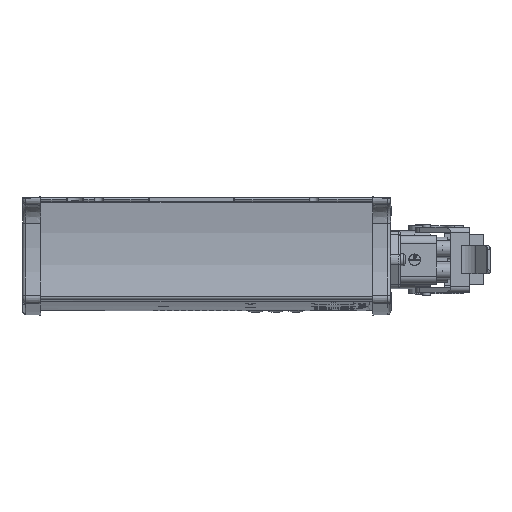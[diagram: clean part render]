
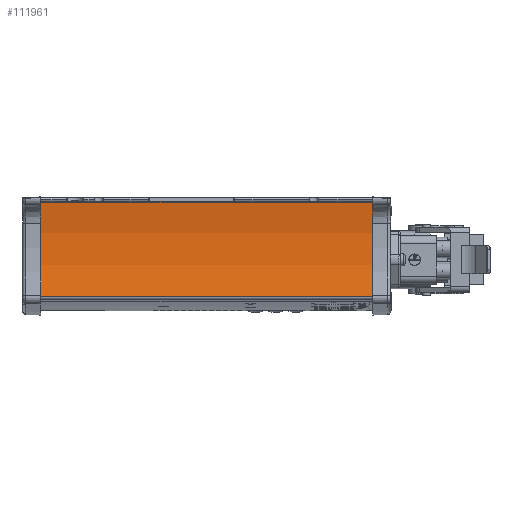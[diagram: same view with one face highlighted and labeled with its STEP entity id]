
A CAD part, left-side view. The second image highlights one B-rep face of the part: STEP entity #111961.
In plain terms, the highlighted cylindrical face has radius 109.9 mm (diameter 219.8 mm), a partial arc.
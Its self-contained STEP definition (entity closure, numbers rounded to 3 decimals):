
#3621 = CARTESIAN_POINT ( 'NONE',  ( -81.929, -175., -49.24 ) ) ;
#9966 = AXIS2_PLACEMENT_3D ( 'NONE', #215116, #163099, #127785 ) ;
#11677 = DIRECTION ( 'NONE',  ( 0., 1., 0. ) ) ;
#16929 = EDGE_CURVE ( 'NONE', #121943, #95277, #79432, .T. ) ;
#17951 = DIRECTION ( 'NONE',  ( 0., 1., 0. ) ) ;
#19027 = DIRECTION ( 'NONE',  ( 0., 0., 1. ) ) ;
#20190 = DIRECTION ( 'NONE',  ( 0., 0., 1. ) ) ;
#21227 = EDGE_CURVE ( 'NONE', #116648, #95277, #76134, .T. ) ;
#24199 = VECTOR ( 'NONE', #211835, 1000. ) ;
#36786 = DIRECTION ( 'NONE',  ( 0., 1., 0. ) ) ;
#42583 = EDGE_CURVE ( 'NONE', #167438, #116648, #92336, .T. ) ;
#51249 = EDGE_CURVE ( 'NONE', #167438, #121943, #191244, .T. ) ;
#53729 = CARTESIAN_POINT ( 'NONE',  ( -79.662, -1., -1.548 ) ) ;
#63244 = CYLINDRICAL_SURFACE ( 'NONE', #9966, 109.9 ) ;
#76134 = CIRCLE ( 'NONE', #136347, 109.9 ) ;
#76559 = ORIENTED_EDGE ( 'NONE', *, *, #21227, .T. ) ;
#79432 = LINE ( 'NONE', #183623, #192776 ) ;
#83214 = ORIENTED_EDGE ( 'NONE', *, *, #16929, .F. ) ;
#92336 = LINE ( 'NONE', #144327, #24199 ) ;
#95277 = VERTEX_POINT ( 'NONE', #171030 ) ;
#99570 = ORIENTED_EDGE ( 'NONE', *, *, #51249, .F. ) ;
#111961 = ADVANCED_FACE ( 'NONE', ( #188735 ), #63244, .F. ) ;
#116648 = VERTEX_POINT ( 'NONE', #53729 ) ;
#121943 = VERTEX_POINT ( 'NONE', #3621 ) ;
#123267 = ORIENTED_EDGE ( 'NONE', *, *, #42583, .T. ) ;
#127785 = DIRECTION ( 'NONE',  ( 0., 0., -1. ) ) ;
#128494 = CARTESIAN_POINT ( 'NONE',  ( -79.662, -175., -1.548 ) ) ;
#136347 = AXIS2_PLACEMENT_3D ( 'NONE', #140008, #36786, #20190 ) ;
#140008 = CARTESIAN_POINT ( 'NONE',  ( -187.95, -1., -20.3 ) ) ;
#144327 = CARTESIAN_POINT ( 'NONE',  ( -79.662, -175., -1.548 ) ) ;
#163099 = DIRECTION ( 'NONE',  ( 0., 1., 0. ) ) ;
#165589 = EDGE_LOOP ( 'NONE', ( #76559, #83214, #99570, #123267 ) ) ;
#167438 = VERTEX_POINT ( 'NONE', #128494 ) ;
#171030 = CARTESIAN_POINT ( 'NONE',  ( -81.929, -1., -49.24 ) ) ;
#183623 = CARTESIAN_POINT ( 'NONE',  ( -81.929, -175., -49.24 ) ) ;
#188719 = CARTESIAN_POINT ( 'NONE',  ( -187.95, -175., -20.3 ) ) ;
#188735 = FACE_OUTER_BOUND ( 'NONE', #165589, .T. ) ;
#191244 = CIRCLE ( 'NONE', #194906, 109.9 ) ;
#192776 = VECTOR ( 'NONE', #11677, 1000. ) ;
#194906 = AXIS2_PLACEMENT_3D ( 'NONE', #188719, #17951, #19027 ) ;
#211835 = DIRECTION ( 'NONE',  ( 0., 1., 0. ) ) ;
#215116 = CARTESIAN_POINT ( 'NONE',  ( -187.95, -175., -20.3 ) ) ;
